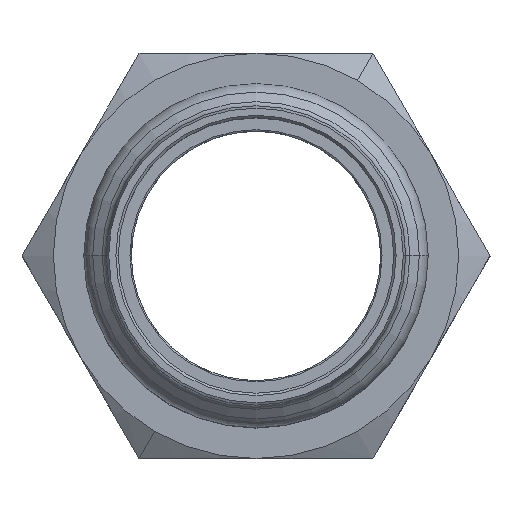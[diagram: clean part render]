
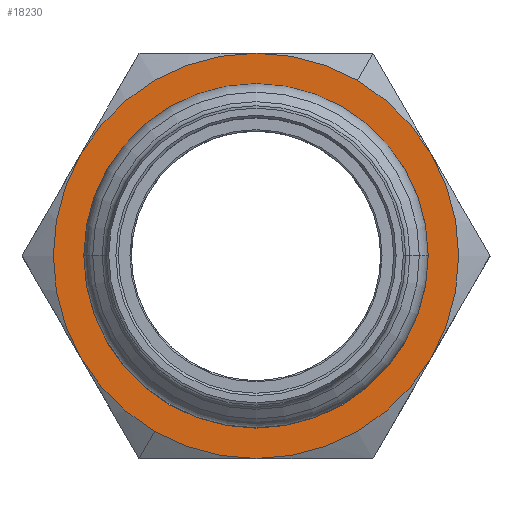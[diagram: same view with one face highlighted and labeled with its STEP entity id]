
A CAD part, top view. The second image highlights one B-rep face of the part: STEP entity #18230.
In plain terms, the highlighted planar face has unit normal (0, 0, 1) as drawn and (0, 0, -1) by its records, which use the part's own axes.
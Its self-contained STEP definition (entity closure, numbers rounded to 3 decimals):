
#17600=CARTESIAN_POINT('',(0.,0.,0.));
#17610=DIRECTION('',(0.,0.,1.));
#17620=DIRECTION('',(1.,0.,0.));
#17630=AXIS2_PLACEMENT_3D('',#17600,#17610,#17620);
#17640=PLANE('',#17630);
#17650=CARTESIAN_POINT('',(56.218,65.017,0.));
#17660=DIRECTION('',(0.,0.,-1.));
#17670=DIRECTION('',(-1.,0.,0.));
#17680=AXIS2_PLACEMENT_3D('',#17650,#17660,#17670);
#17690=CIRCLE('',#17680,22.1);
#17700=CARTESIAN_POINT('',(56.218,42.917,0.));
#17710=VERTEX_POINT('',#17700);
#17720=CARTESIAN_POINT('',(34.118,65.017,0.));
#17730=VERTEX_POINT('',#17720);
#17740=EDGE_CURVE('',#17710,#17730,#17690,.T.);
#17750=ORIENTED_EDGE('',*,*,#17740,.F.);
#17760=CARTESIAN_POINT('',(78.318,65.017,0.));
#17770=VERTEX_POINT('',#17760);
#17780=EDGE_CURVE('',#17730,#17770,#17690,.T.);
#17790=ORIENTED_EDGE('',*,*,#17780,.F.);
#17800=EDGE_CURVE('',#17770,#17710,#17690,.T.);
#17810=ORIENTED_EDGE('',*,*,#17800,.F.);
#17820=EDGE_LOOP('',(#17810,#17790,#17750));
#17830=FACE_BOUND('',#17820,.T.);
#17840=CARTESIAN_POINT('',(56.218,65.017,0.));
#17850=DIRECTION('',(0.,0.,1.));
#17860=DIRECTION('',(-0.5,0.866,0.));
#17870=AXIS2_PLACEMENT_3D('',#17840,#17850,#17860);
#17880=CIRCLE('',#17870,26.);
#17890=CARTESIAN_POINT('',(78.735,78.017,0.));
#17900=VERTEX_POINT('',#17890);
#17910=CARTESIAN_POINT('',(56.218,91.017,0.));
#17920=VERTEX_POINT('',#17910);
#17930=EDGE_CURVE('',#17900,#17920,#17880,.T.);
#17940=ORIENTED_EDGE('',*,*,#17930,.F.);
#17950=CARTESIAN_POINT('',(43.218,87.534,
0.));
#17960=VERTEX_POINT('',#17950);
#17970=EDGE_CURVE('',#17920,#17960,#17880,.T.);
#17980=ORIENTED_EDGE('',*,*,#17970,.F.);
#17990=CARTESIAN_POINT('',(33.702,78.017,0.));
#18000=VERTEX_POINT('',#17990);
#18010=EDGE_CURVE('',#17960,#18000,#17880,.T.);
#18020=ORIENTED_EDGE('',*,*,#18010,.F.);
#18030=CARTESIAN_POINT('',(33.702,52.017,
0.));
#18040=VERTEX_POINT('',#18030);
#18050=EDGE_CURVE('',#18000,#18040,#17880,.T.);
#18060=ORIENTED_EDGE('',*,*,#18050,.F.);
#18070=CARTESIAN_POINT('',(56.218,39.017,0.));
#18080=VERTEX_POINT('',#18070);
#18090=EDGE_CURVE('',#18040,#18080,#17880,.T.);
#18100=ORIENTED_EDGE('',*,*,#18090,.F.);
#18110=CARTESIAN_POINT('',(69.218,42.501,0.));
#18120=VERTEX_POINT('',#18110);
#18130=EDGE_CURVE('',#18080,#18120,#17880,.T.);
#18140=ORIENTED_EDGE('',*,*,#18130,.F.);
#18150=CARTESIAN_POINT('',(78.735,52.017,0.));
#18160=VERTEX_POINT('',#18150);
#18170=EDGE_CURVE('',#18120,#18160,#17880,.T.);
#18180=ORIENTED_EDGE('',*,*,#18170,.F.);
#18190=EDGE_CURVE('',#18160,#17900,#17880,.T.);
#18200=ORIENTED_EDGE('',*,*,#18190,.F.);
#18210=EDGE_LOOP('',(#18200,#18180,#18140,#18100,#18060,#18020,#17980,
#17940));
#18220=FACE_OUTER_BOUND('',#18210,.T.);
#18230=ADVANCED_FACE('',(#17830,#18220),#17640,.F.);
